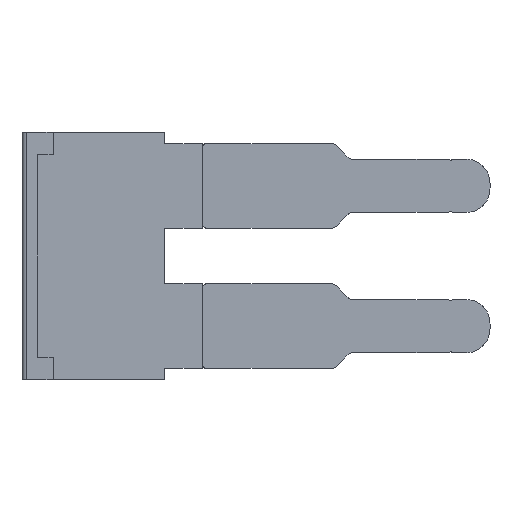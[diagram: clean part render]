
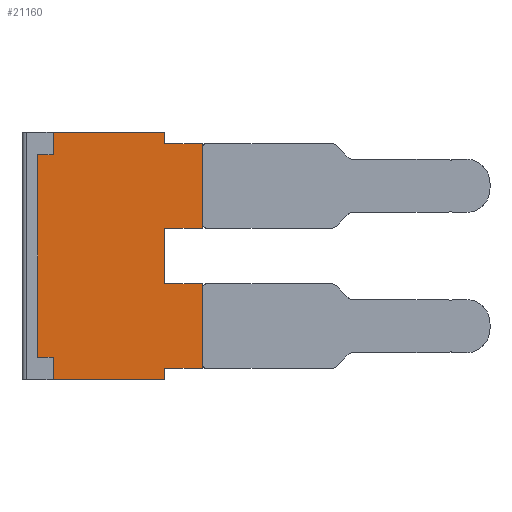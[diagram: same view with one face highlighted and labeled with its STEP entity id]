
A CAD part, left-side view. The second image highlights one B-rep face of the part: STEP entity #21160.
In plain terms, the highlighted planar face has unit normal (-1, 0, 0).
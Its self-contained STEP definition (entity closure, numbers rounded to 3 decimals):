
#2570=CARTESIAN_POINT('',(-8.9,31.8,-10.95));
#2580=VERTEX_POINT('',#2570);
#2610=CARTESIAN_POINT('',(-8.9,33.2,-10.95));
#2620=DIRECTION('',(0.,-1.,0.));
#2630=VECTOR('',#2620,1.);
#2640=LINE('',#2610,#2630);
#2650=CARTESIAN_POINT('',(-8.9,26.8,-10.95));
#2660=VERTEX_POINT('',#2650);
#2670=EDGE_CURVE('',#2580,#2660,#2640,.T.);
#3990=CARTESIAN_POINT('',(-8.9,26.8,
-4.15));
#4000=VERTEX_POINT('',#3990);
#4150=CARTESIAN_POINT('',(-8.9,26.8,
-6.65));
#4160=VERTEX_POINT('',#4150);
#4190=CARTESIAN_POINT('',(-8.9,26.8,-54.45));
#4200=DIRECTION('',(0.,0.,-1.));
#4210=VECTOR('',#4200,1.);
#4220=LINE('',#4190,#4210);
#4230=EDGE_CURVE('',#4000,#4160,#4220,.T.);
#4400=CARTESIAN_POINT('',(-8.9,26.8,-10.15));
#4410=DIRECTION('',(0.,0.,-1.));
#4420=VECTOR('',#4410,1.);
#4430=LINE('',#4400,#4420);
#4440=CARTESIAN_POINT('',(-8.9,26.8,-10.45));
#4450=VERTEX_POINT('',#4440);
#4460=EDGE_CURVE('',#4450,#2660,#4430,.T.);
#6680=CARTESIAN_POINT('',(-8.9,25.1,-6.65));
#6690=VERTEX_POINT('',#6680);
#6860=CARTESIAN_POINT('',(-8.9,25.1,-10.45));
#6870=VERTEX_POINT('',#6860);
#6900=CARTESIAN_POINT('',(-8.9,25.1,44.55));
#6910=DIRECTION('',(0.,0.,1.));
#6920=VECTOR('',#6910,1.);
#6930=LINE('',#6900,#6920);
#6940=EDGE_CURVE('',#6870,#6690,#6930,.T.);
#7750=CARTESIAN_POINT('',(-8.9,33.2,
-6.65));
#7760=DIRECTION('',(0.,1.,0.));
#7770=VECTOR('',#7760,1.);
#7780=LINE('',#7750,#7770);
#7790=EDGE_CURVE('',#6690,#4160,#7780,.T.);
#10070=CARTESIAN_POINT('',(-8.9,31.8,44.55));
#10080=DIRECTION('',(0.,0.,1.));
#10090=VECTOR('',#10080,1.);
#10100=LINE('',#10070,#10090);
#10110=CARTESIAN_POINT('',(-8.9,31.8,
-9.95));
#10120=VERTEX_POINT('',#10110);
#10130=EDGE_CURVE('',#2580,#10120,#10100,.T.);
#10330=CARTESIAN_POINT('',(-8.9,33.2,
-9.95));
#10340=DIRECTION('',(0.,-1.,0.));
#10350=VECTOR('',#10340,1.);
#10360=LINE('',#10330,#10350);
#10370=CARTESIAN_POINT('',(-8.9,32.5,
-9.95));
#10380=VERTEX_POINT('',#10370);
#10390=EDGE_CURVE('',#10380,#10120,#10360,.T.);
#13320=CARTESIAN_POINT('',(-8.9,33.2,-10.45));
#13330=DIRECTION('',(0.,1.,0.));
#13340=VECTOR('',#13330,1.);
#13350=LINE('',#13320,#13340);
#13360=EDGE_CURVE('',#6870,#4450,#13350,.T.);
#17700=CARTESIAN_POINT('',(-8.9,26.8,
0.15));
#17710=VERTEX_POINT('',#17700);
#17740=CARTESIAN_POINT('',(-8.9,33.2,
0.15));
#17750=DIRECTION('',(0.,-1.,0.));
#17760=VECTOR('',#17750,1.);
#17770=LINE('',#17740,#17760);
#17780=CARTESIAN_POINT('',(-8.9,31.8,
0.15));
#17790=VERTEX_POINT('',#17780);
#17800=EDGE_CURVE('',#17790,#17710,#17770,.T.);
#18170=CARTESIAN_POINT('',(-8.9,31.8,
-0.85));
#18180=VERTEX_POINT('',#18170);
#18230=CARTESIAN_POINT('',(-8.9,31.8,-55.35));
#18240=DIRECTION('',(0.,0.,-1.));
#18250=VECTOR('',#18240,1.);
#18260=LINE('',#18230,#18250);
#18270=EDGE_CURVE('',#17790,#18180,#18260,.T.);
#18480=CARTESIAN_POINT('',(-8.9,32.5,
-0.85));
#18490=VERTEX_POINT('',#18480);
#18540=CARTESIAN_POINT('',(-8.9,33.2,
-0.85));
#18550=DIRECTION('',(0.,-1.,0.));
#18560=VECTOR('',#18550,1.);
#18570=LINE('',#18540,#18560);
#18580=EDGE_CURVE('',#18490,#18180,#18570,.T.);
#18780=CARTESIAN_POINT('',(-8.9,32.5,-55.35));
#18790=DIRECTION('',(0.,0.,1.));
#18800=VECTOR('',#18790,1.);
#18810=LINE('',#18780,#18800);
#18820=EDGE_CURVE('',#10380,#18490,#18810,.T.);
#20670=CARTESIAN_POINT('',(-8.9,33.2,-59.65));
#20680=DIRECTION('',(-1.,-0.,0.));
#20690=DIRECTION('',(0.,0.,-1.));
#20700=AXIS2_PLACEMENT_3D('',#20670,#20680,#20690);
#20710=PLANE('',#20700);
#20720=ORIENTED_EDGE('',*,*,#18270,.T.);
#20730=ORIENTED_EDGE('',*,*,#17800,.F.);
#20740=CARTESIAN_POINT('',(-8.9,26.8,
-0.65));
#20750=DIRECTION('',(0.,0.,1.));
#20760=VECTOR('',#20750,1.);
#20770=LINE('',#20740,#20760);
#20780=CARTESIAN_POINT('',(-8.9,26.8,
-0.35));
#20790=VERTEX_POINT('',#20780);
#20800=EDGE_CURVE('',#20790,#17710,#20770,.T.);
#20810=ORIENTED_EDGE('',*,*,#20800,.T.);
#20820=CARTESIAN_POINT('',(-8.9,33.2,
-0.35));
#20830=DIRECTION('',(0.,1.,0.));
#20840=VECTOR('',#20830,1.);
#20850=LINE('',#20820,#20840);
#20860=CARTESIAN_POINT('',(-8.9,25.1,-0.35));
#20870=VERTEX_POINT('',#20860);
#20880=EDGE_CURVE('',#20870,#20790,#20850,.T.);
#20890=ORIENTED_EDGE('',*,*,#20880,.T.);
#20900=CARTESIAN_POINT('',(-8.9,25.1,-55.35));
#20910=DIRECTION('',(0.,0.,-1.));
#20920=VECTOR('',#20910,1.);
#20930=LINE('',#20900,#20920);
#20940=CARTESIAN_POINT('',(-8.9,25.1,-4.15));
#20950=VERTEX_POINT('',#20940);
#20960=EDGE_CURVE('',#20870,#20950,#20930,.T.);
#20970=ORIENTED_EDGE('',*,*,#20960,.F.);
#20980=CARTESIAN_POINT('',(-8.9,33.2,
-4.15));
#20990=DIRECTION('',(0.,1.,0.));
#21000=VECTOR('',#20990,1.);
#21010=LINE('',#20980,#21000);
#21020=EDGE_CURVE('',#20950,#4000,#21010,.T.);
#21030=ORIENTED_EDGE('',*,*,#21020,.F.);
#21040=ORIENTED_EDGE('',*,*,#4230,.F.);
#21050=ORIENTED_EDGE('',*,*,#7790,.T.);
#21060=ORIENTED_EDGE('',*,*,#6940,.T.);
#21070=ORIENTED_EDGE('',*,*,#13360,.F.);
#21080=ORIENTED_EDGE('',*,*,#4460,.F.);
#21090=ORIENTED_EDGE('',*,*,#2670,.T.);
#21100=ORIENTED_EDGE('',*,*,#10130,.F.);
#21110=ORIENTED_EDGE('',*,*,#10390,.T.);
#21120=ORIENTED_EDGE('',*,*,#18820,.F.);
#21130=ORIENTED_EDGE('',*,*,#18580,.F.);
#21140=EDGE_LOOP('',(#21130,#21120,#21110,#21100,#21090,#21080,#21070,
#21060,#21050,#21040,#21030,#20970,#20890,#20810,#20730,#20720));
#21150=FACE_OUTER_BOUND('',#21140,.T.);
#21160=ADVANCED_FACE('',(#21150),#20710,.T.);
